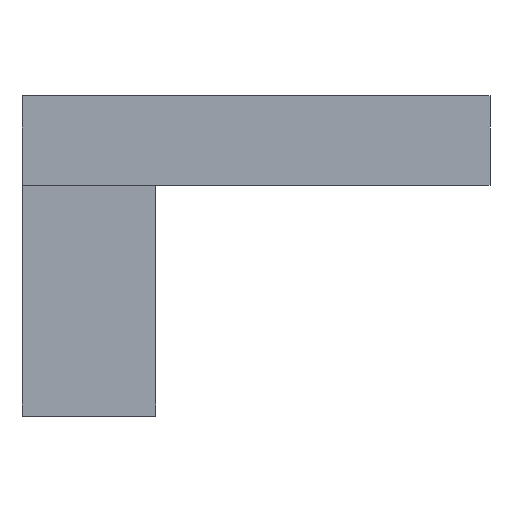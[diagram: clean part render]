
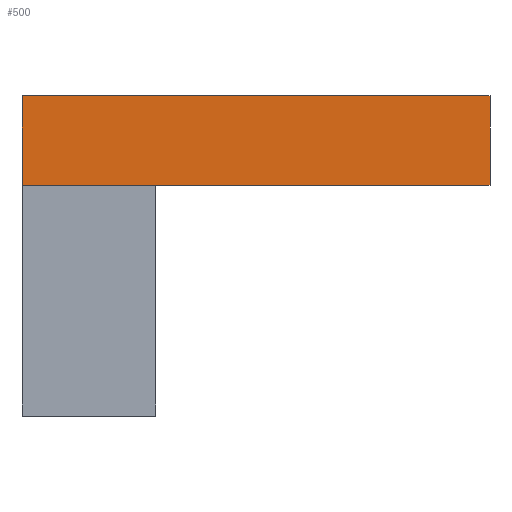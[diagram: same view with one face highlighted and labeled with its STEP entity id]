
A CAD part, front view. The second image highlights one B-rep face of the part: STEP entity #500.
In plain terms, the highlighted planar face has unit normal (0, -1, 0).
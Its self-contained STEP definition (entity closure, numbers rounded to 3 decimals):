
#22 = VERTEX_POINT('',#23);
#23 = CARTESIAN_POINT('',(51.,-7.3,-257.637));
#32 = PLANE('',#33);
#33 = AXIS2_PLACEMENT_3D('',#34,#35,#36);
#34 = CARTESIAN_POINT('',(51.,-7.3,-261.637));
#35 = DIRECTION('',(1.,0.,0.));
#36 = DIRECTION('',(0.,0.,1.));
#44 = PLANE('',#45);
#45 = AXIS2_PLACEMENT_3D('',#46,#47,#48);
#46 = CARTESIAN_POINT('',(51.,-7.3,-257.637));
#47 = DIRECTION('',(0.,0.,1.));
#48 = DIRECTION('',(1.,0.,0.));
#56 = EDGE_CURVE('',#57,#22,#59,.T.);
#57 = VERTEX_POINT('',#58);
#58 = CARTESIAN_POINT('',(51.,-7.3,-261.637));
#59 = SURFACE_CURVE('',#60,(#64,#71),.PCURVE_S1.);
#60 = LINE('',#61,#62);
#61 = CARTESIAN_POINT('',(51.,-7.3,-261.637));
#62 = VECTOR('',#63,1.);
#63 = DIRECTION('',(0.,0.,1.));
#64 = PCURVE('',#32,#65);
#65 = DEFINITIONAL_REPRESENTATION('',(#66),#70);
#66 = LINE('',#67,#68);
#67 = CARTESIAN_POINT('',(0.,0.));
#68 = VECTOR('',#69,1.);
#69 = DIRECTION('',(1.,0.));
#70 = ( GEOMETRIC_REPRESENTATION_CONTEXT(2) 
PARAMETRIC_REPRESENTATION_CONTEXT() REPRESENTATION_CONTEXT('2D SPACE',''
  ) );
#71 = PCURVE('',#72,#77);
#72 = PLANE('',#73);
#73 = AXIS2_PLACEMENT_3D('',#74,#75,#76);
#74 = CARTESIAN_POINT('',(51.,-7.3,-261.637));
#75 = DIRECTION('',(0.,1.,0.));
#76 = DIRECTION('',(0.,0.,1.));
#77 = DEFINITIONAL_REPRESENTATION('',(#78),#82);
#78 = LINE('',#79,#80);
#79 = CARTESIAN_POINT('',(0.,0.));
#80 = VECTOR('',#81,1.);
#81 = DIRECTION('',(1.,0.));
#82 = ( GEOMETRIC_REPRESENTATION_CONTEXT(2) 
PARAMETRIC_REPRESENTATION_CONTEXT() REPRESENTATION_CONTEXT('2D SPACE',''
  ) );
#100 = PLANE('',#101);
#101 = AXIS2_PLACEMENT_3D('',#102,#103,#104);
#102 = CARTESIAN_POINT('',(51.,-7.3,-261.637));
#103 = DIRECTION('',(0.,0.,1.));
#104 = DIRECTION('',(1.,0.,0.));
#233 = EDGE_CURVE('',#22,#234,#236,.T.);
#234 = VERTEX_POINT('',#235);
#235 = CARTESIAN_POINT('',(72.,-7.3,-257.637));
#236 = SURFACE_CURVE('',#237,(#241,#248),.PCURVE_S1.);
#237 = LINE('',#238,#239);
#238 = CARTESIAN_POINT('',(51.,-7.3,-257.637));
#239 = VECTOR('',#240,1.);
#240 = DIRECTION('',(1.,0.,0.));
#241 = PCURVE('',#44,#242);
#242 = DEFINITIONAL_REPRESENTATION('',(#243),#247);
#243 = LINE('',#244,#245);
#244 = CARTESIAN_POINT('',(0.,0.));
#245 = VECTOR('',#246,1.);
#246 = DIRECTION('',(1.,0.));
#247 = ( GEOMETRIC_REPRESENTATION_CONTEXT(2) 
PARAMETRIC_REPRESENTATION_CONTEXT() REPRESENTATION_CONTEXT('2D SPACE',''
  ) );
#248 = PCURVE('',#72,#249);
#249 = DEFINITIONAL_REPRESENTATION('',(#250),#254);
#250 = LINE('',#251,#252);
#251 = CARTESIAN_POINT('',(4.,0.));
#252 = VECTOR('',#253,1.);
#253 = DIRECTION('',(0.,1.));
#254 = ( GEOMETRIC_REPRESENTATION_CONTEXT(2) 
PARAMETRIC_REPRESENTATION_CONTEXT() REPRESENTATION_CONTEXT('2D SPACE',''
  ) );
#272 = PLANE('',#273);
#273 = AXIS2_PLACEMENT_3D('',#274,#275,#276);
#274 = CARTESIAN_POINT('',(72.,-7.3,-261.637));
#275 = DIRECTION('',(1.,0.,0.));
#276 = DIRECTION('',(0.,0.,1.));
#500 = ADVANCED_FACE('',(#501),#72,.F.);
#501 = FACE_BOUND('',#502,.F.);
#502 = EDGE_LOOP('',(#503,#526,#527,#528));
#503 = ORIENTED_EDGE('',*,*,#504,.F.);
#504 = EDGE_CURVE('',#57,#505,#507,.T.);
#505 = VERTEX_POINT('',#506);
#506 = CARTESIAN_POINT('',(72.,-7.3,-261.637));
#507 = SURFACE_CURVE('',#508,(#512,#519),.PCURVE_S1.);
#508 = LINE('',#509,#510);
#509 = CARTESIAN_POINT('',(51.,-7.3,-261.637));
#510 = VECTOR('',#511,1.);
#511 = DIRECTION('',(1.,0.,0.));
#512 = PCURVE('',#72,#513);
#513 = DEFINITIONAL_REPRESENTATION('',(#514),#518);
#514 = LINE('',#515,#516);
#515 = CARTESIAN_POINT('',(0.,0.));
#516 = VECTOR('',#517,1.);
#517 = DIRECTION('',(0.,1.));
#518 = ( GEOMETRIC_REPRESENTATION_CONTEXT(2) 
PARAMETRIC_REPRESENTATION_CONTEXT() REPRESENTATION_CONTEXT('2D SPACE',''
  ) );
#519 = PCURVE('',#100,#520);
#520 = DEFINITIONAL_REPRESENTATION('',(#521),#525);
#521 = LINE('',#522,#523);
#522 = CARTESIAN_POINT('',(0.,0.));
#523 = VECTOR('',#524,1.);
#524 = DIRECTION('',(1.,0.));
#525 = ( GEOMETRIC_REPRESENTATION_CONTEXT(2) 
PARAMETRIC_REPRESENTATION_CONTEXT() REPRESENTATION_CONTEXT('2D SPACE',''
  ) );
#526 = ORIENTED_EDGE('',*,*,#56,.T.);
#527 = ORIENTED_EDGE('',*,*,#233,.T.);
#528 = ORIENTED_EDGE('',*,*,#529,.F.);
#529 = EDGE_CURVE('',#505,#234,#530,.T.);
#530 = SURFACE_CURVE('',#531,(#535,#542),.PCURVE_S1.);
#531 = LINE('',#532,#533);
#532 = CARTESIAN_POINT('',(72.,-7.3,-261.637));
#533 = VECTOR('',#534,1.);
#534 = DIRECTION('',(0.,0.,1.));
#535 = PCURVE('',#72,#536);
#536 = DEFINITIONAL_REPRESENTATION('',(#537),#541);
#537 = LINE('',#538,#539);
#538 = CARTESIAN_POINT('',(0.,21.));
#539 = VECTOR('',#540,1.);
#540 = DIRECTION('',(1.,0.));
#541 = ( GEOMETRIC_REPRESENTATION_CONTEXT(2) 
PARAMETRIC_REPRESENTATION_CONTEXT() REPRESENTATION_CONTEXT('2D SPACE',''
  ) );
#542 = PCURVE('',#272,#543);
#543 = DEFINITIONAL_REPRESENTATION('',(#544),#548);
#544 = LINE('',#545,#546);
#545 = CARTESIAN_POINT('',(0.,0.));
#546 = VECTOR('',#547,1.);
#547 = DIRECTION('',(1.,0.));
#548 = ( GEOMETRIC_REPRESENTATION_CONTEXT(2) 
PARAMETRIC_REPRESENTATION_CONTEXT() REPRESENTATION_CONTEXT('2D SPACE',''
  ) );
